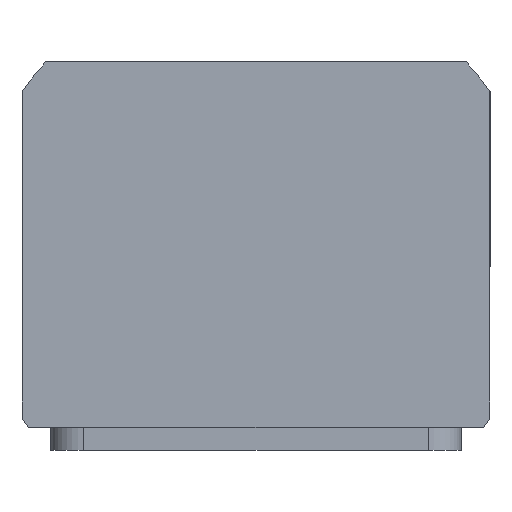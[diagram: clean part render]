
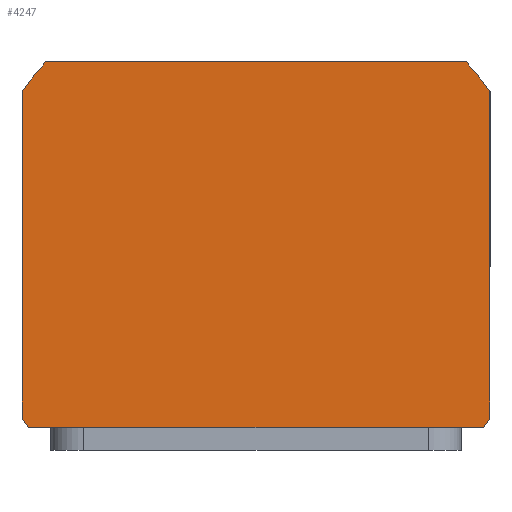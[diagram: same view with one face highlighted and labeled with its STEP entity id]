
A CAD part, top view. The second image highlights one B-rep face of the part: STEP entity #4247.
In plain terms, the highlighted planar face has unit normal (0, 0, 1) as drawn and (0, 0, -1) by its records, which use the part's own axes.
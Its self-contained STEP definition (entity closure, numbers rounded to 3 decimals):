
#31 = VECTOR ( 'NONE', #8378, 1000. ) ;
#201 = DIRECTION ( 'NONE',  ( 1., 0., 0. ) ) ;
#1670 = ORIENTED_EDGE ( 'NONE', *, *, #6659, .F. ) ;
#1802 = EDGE_CURVE ( 'NONE', #19360, #4017, #7455, .T. ) ;
#2568 = AXIS2_PLACEMENT_3D ( 'NONE', #21407, #10835, #201 ) ;
#3086 = LINE ( 'NONE', #19270, #20222 ) ;
#3263 = VERTEX_POINT ( 'NONE', #16744 ) ;
#3317 = VECTOR ( 'NONE', #12357, 1000. ) ;
#3652 = CARTESIAN_POINT ( 'NONE',  ( 57., -37.255, 0. ) ) ;
#4017 = VERTEX_POINT ( 'NONE', #21952 ) ;
#4043 = CARTESIAN_POINT ( 'NONE',  ( 0., 2.51, 0. ) ) ;
#4247 = ADVANCED_FACE ( 'NONE', ( #13534 ), #19901, .F. ) ;
#4490 = AXIS2_PLACEMENT_3D ( 'NONE', #4043, #16429, #5823 ) ;
#4588 = VECTOR ( 'NONE', #16910, 1000. ) ;
#4881 = EDGE_CURVE ( 'NONE', #11823, #19360, #17385, .T. ) ;
#5052 = VERTEX_POINT ( 'NONE', #7656 ) ;
#5786 = EDGE_CURVE ( 'NONE', #4017, #9623, #21253, .T. ) ;
#5823 = DIRECTION ( 'NONE',  ( 1., 0., 0. ) ) ;
#6183 = AXIS2_PLACEMENT_3D ( 'NONE', #14447, #9305, #21682 ) ;
#6659 = EDGE_CURVE ( 'NONE', #7980, #17907, #21503, .T. ) ;
#7130 = DIRECTION ( 'NONE',  ( 0., 0., 1. ) ) ;
#7455 = LINE ( 'NONE', #15997, #3317 ) ;
#7594 = CARTESIAN_POINT ( 'NONE',  ( 0., 2.51, 0. ) ) ;
#7656 = CARTESIAN_POINT ( 'NONE',  ( -57., 42.275, 0. ) ) ;
#7980 = VERTEX_POINT ( 'NONE', #13988 ) ;
#8169 = AXIS2_PLACEMENT_3D ( 'NONE', #17731, #7130, #19482 ) ;
#8188 = EDGE_CURVE ( 'NONE', #17907, #3263, #10420, .T. ) ;
#8378 = DIRECTION ( 'NONE',  ( 0., -1., 0. ) ) ;
#9305 = DIRECTION ( 'NONE',  ( 0., 0., 1. ) ) ;
#9381 = DIRECTION ( 'NONE',  ( 1., 0., 0. ) ) ;
#9623 = VERTEX_POINT ( 'NONE', #3652 ) ;
#10420 = LINE ( 'NONE', #17909, #4588 ) ;
#10486 = DIRECTION ( 'NONE',  ( 0., 1., 0. ) ) ;
#10835 = DIRECTION ( 'NONE',  ( 0., 0., 1. ) ) ;
#11693 = CARTESIAN_POINT ( 'NONE',  ( 55.382, 44.5, 0. ) ) ;
#11823 = VERTEX_POINT ( 'NONE', #21332 ) ;
#12357 = DIRECTION ( 'NONE',  ( 1., 0., 0. ) ) ;
#12519 = LINE ( 'NONE', #18947, #31 ) ;
#13056 = ORIENTED_EDGE ( 'NONE', *, *, #1802, .F. ) ;
#13383 = EDGE_LOOP ( 'NONE', ( #1670, #18263, #22332, #13056, #20084, #22058, #15949, #14730 ) ) ;
#13534 = FACE_OUTER_BOUND ( 'NONE', #13383, .T. ) ;
#13988 = CARTESIAN_POINT ( 'NONE',  ( 57., 42.275, 0. ) ) ;
#14447 = CARTESIAN_POINT ( 'NONE',  ( 0., 0., 0. ) ) ;
#14730 = ORIENTED_EDGE ( 'NONE', *, *, #8188, .F. ) ;
#14978 = CIRCLE ( 'NONE', #17601, 69.5 ) ;
#15949 = ORIENTED_EDGE ( 'NONE', *, *, #21377, .F. ) ;
#15997 = CARTESIAN_POINT ( 'NONE',  ( -57., -44.5, 0. ) ) ;
#16429 = DIRECTION ( 'NONE',  ( 0., 0., 1. ) ) ;
#16744 = CARTESIAN_POINT ( 'NONE',  ( -55.382, 44.5, 0. ) ) ;
#16910 = DIRECTION ( 'NONE',  ( -1., 0., 0. ) ) ;
#17385 = CIRCLE ( 'NONE', #8169, 69.5 ) ;
#17601 = AXIS2_PLACEMENT_3D ( 'NONE', #7594, #19970, #9381 ) ;
#17731 = CARTESIAN_POINT ( 'NONE',  ( 0., 2.51, 0. ) ) ;
#17907 = VERTEX_POINT ( 'NONE', #11693 ) ;
#17909 = CARTESIAN_POINT ( 'NONE',  ( -57., 44.5, 0. ) ) ;
#18263 = ORIENTED_EDGE ( 'NONE', *, *, #21064, .F. ) ;
#18947 = CARTESIAN_POINT ( 'NONE',  ( -57., 44.5, 0. ) ) ;
#19270 = CARTESIAN_POINT ( 'NONE',  ( 57., 44.5, 0. ) ) ;
#19360 = VERTEX_POINT ( 'NONE', #20848 ) ;
#19482 = DIRECTION ( 'NONE',  ( 1., 0., 0. ) ) ;
#19901 = PLANE ( 'NONE',  #6183 ) ;
#19970 = DIRECTION ( 'NONE',  ( 0., 0., 1. ) ) ;
#20084 = ORIENTED_EDGE ( 'NONE', *, *, #4881, .F. ) ;
#20222 = VECTOR ( 'NONE', #10486, 1000. ) ;
#20848 = CARTESIAN_POINT ( 'NONE',  ( -51.189, -44.5, 0. ) ) ;
#20873 = EDGE_CURVE ( 'NONE', #5052, #11823, #12519, .T. ) ;
#21064 = EDGE_CURVE ( 'NONE', #9623, #7980, #3086, .T. ) ;
#21253 = CIRCLE ( 'NONE', #2568, 69.5 ) ;
#21332 = CARTESIAN_POINT ( 'NONE',  ( -57., -37.255, 0. ) ) ;
#21377 = EDGE_CURVE ( 'NONE', #3263, #5052, #14978, .T. ) ;
#21407 = CARTESIAN_POINT ( 'NONE',  ( 0., 2.51, 0. ) ) ;
#21503 = CIRCLE ( 'NONE', #4490, 69.5 ) ;
#21682 = DIRECTION ( 'NONE',  ( 1., 0., 0. ) ) ;
#21952 = CARTESIAN_POINT ( 'NONE',  ( 51.189, -44.5, 0. ) ) ;
#22058 = ORIENTED_EDGE ( 'NONE', *, *, #20873, .F. ) ;
#22332 = ORIENTED_EDGE ( 'NONE', *, *, #5786, .F. ) ;
